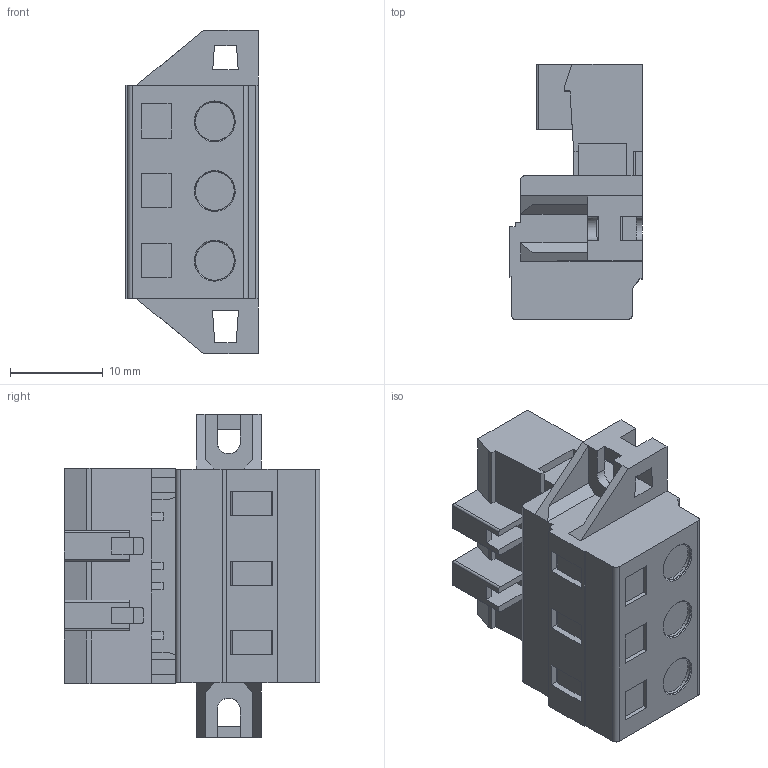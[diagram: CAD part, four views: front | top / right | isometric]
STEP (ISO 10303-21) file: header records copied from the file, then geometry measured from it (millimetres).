
FILE_DESCRIPTION((''),'2;1');
FILE_NAME('3PIN_SW0001','2019-06-06T',('zhenbing.lai'),(''),'CREO PARAMETRIC BY PTC INC, 2016260','CREO PARAMETRIC BY PTC INC, 2016260','');
FILE_SCHEMA(('CONFIG_CONTROL_DESIGN'));
Length unit declared in the file: millimetre
Products named in the file (1): 3PIN_SW0001
Bounding box: 14.3 x 27.5 x 34.8 mm (x, y, z)
Volume: 6291 mm3; surface area: 4059.3 mm2
Topology: 1 solids, 4 shells, 388 faces, 1061 edges, 685 vertices
Faces by surface type: plane 349, cylinder 24, cone 15
Entity records: 12128 total; most frequent: CARTESIAN_POINT 2214, ORIENTED_EDGE 2122, DIRECTION 1896, EDGE_CURVE 1061, VECTOR 970, LINE 970, VERTEX_POINT 685, AXIS2_PLACEMENT_3D 463
